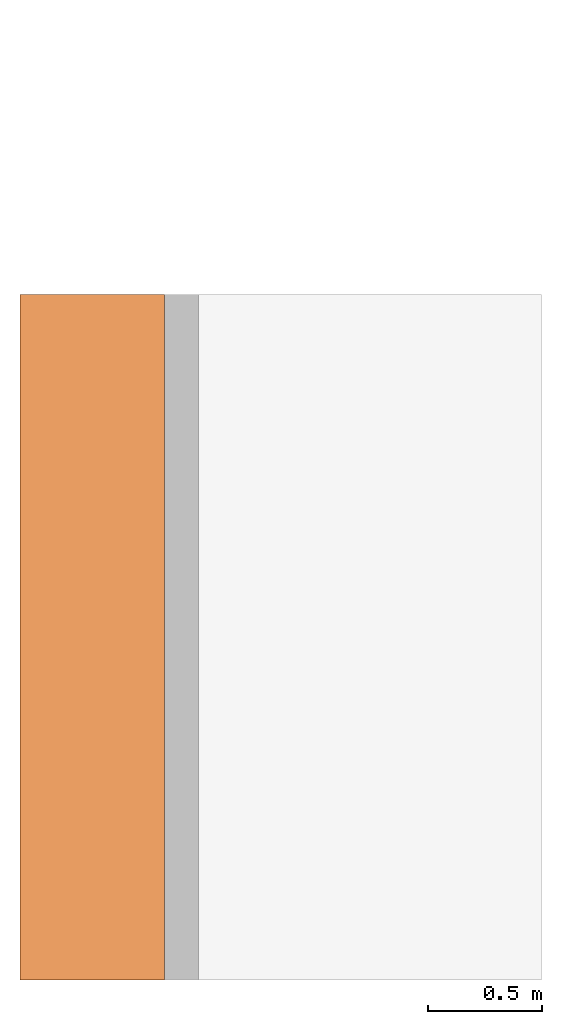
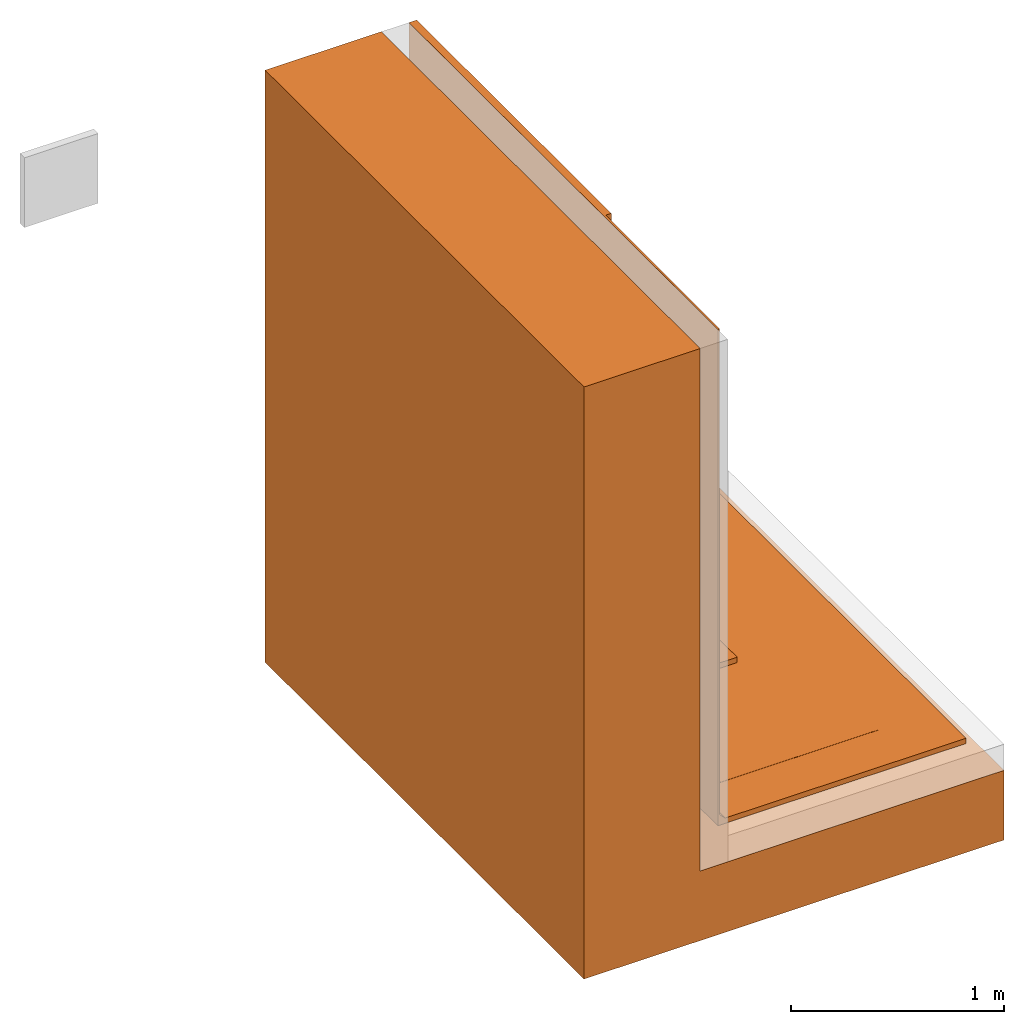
# One storey, part 2 of 2: 1 proxy.
"""IFC2X3 building model written with IfcOpenShell, lengths in metres."""

import ifcopenshell
import ifcopenshell.guid

model = None  # the IFC model being written
_history = None  # IfcOwnerHistory: only IFC2X3 demands one
_inside = {}  # id of a spatial element -> (the spatial element, [elements in it])
_under = {}  # id of a project, library or spatial element -> (it, [spatial elements below it])
_declared = {}  # id of a project -> (the project, [libraries it declares])
_typed = {}  # id of a type object -> (the type object, [elements of that type])
_made_of = {}  # id of a material, layer set ... -> (it, [elements and type objects made of it])


def new_model(schema):
    """Start an empty IFC model of exactly this schema.

    Asked for "IFC4X3", IfcOpenShell would pick the latest addendum, in which some entities
    have other attributes; the version numbers below select the first issue.
    IFC2X3 requires an IfcOwnerHistory on every rooted entity: one is made here for all.
    """
    global model, _history
    if schema == "IFC4X3":
        model = ifcopenshell.file(schema_version=(4, 3, 0, 0))
    else:
        model = ifcopenshell.file(schema=schema)
    _inside.clear()
    _under.clear()
    _declared.clear()
    _typed.clear()
    _made_of.clear()
    _history = None
    if model.schema == "IFC2X3":
        org = make("IfcOrganization", Name="unknown")
        user = make(
            "IfcPersonAndOrganization",
            ThePerson=make("IfcPerson", FamilyName="unknown"),
            TheOrganization=org,
        )
        app = make(
            "IfcApplication",
            ApplicationDeveloper=org,
            Version="unknown",
            ApplicationFullName="unknown",
            ApplicationIdentifier="unknown",
        )
        _history = make(
            "IfcOwnerHistory",
            OwningUser=user,
            OwningApplication=app,
            ChangeAction="ADDED",
            CreationDate=0,
        )
    return model


def make(cls, **values):
    """One entity of the class cls with the attributes given. An attribute that is None is left unset."""
    return model.create_entity(
        cls, **{name: value for name, value in values.items() if value is not None}
    )


def entity(cls, *values):
    """Any entity or typed value of the class cls, its attributes in the order of the schema. None: left unset."""
    e = model.create_entity(cls)
    for i, value in enumerate(values):
        if value is not None:
            e[i] = value
    return e


def rooted(cls, **values):
    """An entity with a GlobalId (a new one), such as an element, a storey or a relation."""
    return make(cls, GlobalId=ifcopenshell.guid.new(), OwnerHistory=_history, **values)


def si_unit(unit_type, name, prefix=None):
    """IfcSIUnit, for example si_unit("LENGTHUNIT", "METRE", prefix="MILLI")."""
    return make("IfcSIUnit", UnitType=unit_type, Prefix=prefix, Name=name)


def converted_unit(unit_type, name, factor, base, dimensions=None, offset=None):
    """IfcConversionBasedUnit, such as the inch: factor (a typed value) times the base unit."""
    return make(
        "IfcConversionBasedUnit"
        if offset is None
        else "IfcConversionBasedUnitWithOffset",
        ConversionOffset=offset,
        Dimensions=None
        if dimensions is None
        else entity("IfcDimensionalExponents", *dimensions),
        UnitType=unit_type,
        Name=name,
        ConversionFactor=make(
            "IfcMeasureWithUnit", ValueComponent=factor, UnitComponent=base
        ),
    )


def derived_unit(unit_type, elements):
    """IfcDerivedUnit: a product of units, each with its exponent."""
    return make(
        "IfcDerivedUnit",
        Elements=[
            make("IfcDerivedUnitElement", Unit=unit, Exponent=power)
            for unit, power in elements
        ],
        UnitType=unit_type,
    )


def assignment(units):
    """IfcUnitAssignment: the units of a project."""
    return None if units is None else make("IfcUnitAssignment", Units=units)


def point(xyz):
    """IfcCartesianPoint."""
    return None if xyz is None else make("IfcCartesianPoint", Coordinates=xyz)


def direction(xyz):
    """IfcDirection."""
    return None if xyz is None else make("IfcDirection", DirectionRatios=xyz)


def frame(location, z_axis=None, x_axis=None):
    """IfcAxis2Placement3D, a coordinate frame: its origin and axes. An axis left out is left unset."""
    return make(
        "IfcAxis2Placement3D",
        Location=point(location),
        Axis=direction(z_axis),
        RefDirection=direction(x_axis),
    )


def frame_2d(location, x_axis=None):
    """IfcAxis2Placement2D, a coordinate frame in the plane: its origin and x axis."""
    return make(
        "IfcAxis2Placement2D", Location=point(location), RefDirection=direction(x_axis)
    )


def origin():
    """The frame at (0, 0, 0) with its axes left unset."""
    return frame((0.0, 0.0, 0.0))


def origin_2d_with_axis():
    """The frame at (0, 0) in the plane with the x axis (1, 0) written out."""
    return frame_2d((0.0, 0.0), x_axis=(1.0, 0.0))


def place(relative_to, where):
    """IfcLocalPlacement: puts the frame where relative to a parent placement (None: the world)."""
    return make(
        "IfcLocalPlacement", PlacementRelTo=relative_to, RelativePlacement=where
    )


def context(
    kind, dimensions, precision=None, world=None, true_north=None, identifier=None
):
    """IfcGeometricRepresentationContext, for example the 3D "Model" context."""
    return make(
        "IfcGeometricRepresentationContext",
        ContextIdentifier=identifier,
        ContextType=kind,
        CoordinateSpaceDimension=dimensions,
        Precision=precision,
        WorldCoordinateSystem=world,
        TrueNorth=true_north,
    )


def subcontext(parent, identifier, kind, view, scale=None):
    """IfcGeometricRepresentationSubContext, for example "Body" below "Model"."""
    return make(
        "IfcGeometricRepresentationSubContext",
        ContextIdentifier=identifier,
        ContextType=kind,
        ParentContext=parent,
        TargetScale=scale,
        TargetView=view,
    )


def project(units=None, contexts=None):
    """IfcProject with its units and contexts."""
    return rooted(
        "IfcProject",
        Name="project",
        RepresentationContexts=contexts,
        UnitsInContext=assignment(units),
    )


def spatial(cls, under=None, at=None, **own):
    """A site, building, storey or space (cls), placed at a placement, below another one or the project."""
    s = rooted(cls, ObjectPlacement=at, **own)
    if under is not None:
        _under.setdefault(under.id(), (under, []))[1].append(s)
    return s


def polyline(points):
    """IfcPolyline through the points."""
    return make("IfcPolyline", Points=[point(p) for p in points])


def circle_curve(where, radius):
    """IfcCircle in the frame where."""
    return make("IfcCircle", Position=where, Radius=radius)


def parameter(value):
    """IfcParameterValue: where a trimmed curve begins or ends, as a parameter of its basis curve."""
    return model.create_entity("IfcParameterValue", value)


def trimmed(basis, trim1, trim2, sense, master):
    """IfcTrimmedCurve: the piece of a basis curve between two trims."""
    return make(
        "IfcTrimmedCurve",
        BasisCurve=basis,
        Trim1=trim1,
        Trim2=trim2,
        SenseAgreement=sense,
        MasterRepresentation=master,
    )


def segment(curve, same_sense, transition):
    """IfcCompositeCurveSegment."""
    return make(
        "IfcCompositeCurveSegment",
        Transition=transition,
        SameSense=same_sense,
        ParentCurve=curve,
    )


def composite_curve(segments, self_intersect=None):
    """IfcCompositeCurve: segments joined end to end."""
    return make("IfcCompositeCurve", Segments=segments, SelfIntersect=self_intersect)


def profile(cls, at=None, kind="AREA", **sizes):
    """A parametric profile (cls). Its sizes go by their IFC names, for example OverallWidth=200.0."""
    return make(cls, ProfileType=kind, Position=at, **sizes)


def rectangle(**sizes):
    """IfcRectangleProfileDef."""
    return profile("IfcRectangleProfileDef", **sizes)


def outline(outer, holes=None, kind="AREA"):
    """IfcArbitraryClosedProfileDef: a profile drawn as a closed curve; with holes, ...WithVoids."""
    if holes is None:
        return make("IfcArbitraryClosedProfileDef", ProfileType=kind, OuterCurve=outer)
    return make(
        "IfcArbitraryProfileDefWithVoids",
        ProfileType=kind,
        OuterCurve=outer,
        InnerCurves=holes,
    )


def extrude(swept, where, along, depth):
    """IfcExtrudedAreaSolid: the profile swept, set in the frame where, extruded along a direction by depth."""
    return make(
        "IfcExtrudedAreaSolid",
        SweptArea=swept,
        Position=where,
        ExtrudedDirection=direction(along),
        Depth=depth,
    )


def shape(context_of_items, identifier, shape_type, items):
    """IfcShapeRepresentation: the items that make up one representation, for example the "Body"."""
    return make(
        "IfcShapeRepresentation",
        ContextOfItems=context_of_items,
        RepresentationIdentifier=identifier,
        RepresentationType=shape_type,
        Items=items,
    )


def source(mapping_origin, context_of_items, identifier, shape_type, items):
    """IfcRepresentationMap: a shape defined once, which mapped items show again and again."""
    return make(
        "IfcRepresentationMap",
        MappingOrigin=mapping_origin,
        MappedRepresentation=shape(context_of_items, identifier, shape_type, items),
    )


def transform(
    local_origin,
    x_axis=None,
    y_axis=None,
    z_axis=None,
    scale=None,
    scale2=None,
    scale3=None,
    uniform=True,
):
    """IfcCartesianTransformationOperator3D, or its non-uniform kind. x_axis, y_axis, z_axis: its Axis1, 2, 3."""
    if uniform:
        return make(
            "IfcCartesianTransformationOperator3D",
            Axis1=direction(x_axis),
            Axis2=direction(y_axis),
            LocalOrigin=point(local_origin),
            Scale=scale,
            Axis3=direction(z_axis),
        )
    return make(
        "IfcCartesianTransformationOperator3DnonUniform",
        Axis1=direction(x_axis),
        Axis2=direction(y_axis),
        LocalOrigin=point(local_origin),
        Scale=scale,
        Axis3=direction(z_axis),
        Scale2=scale2,
        Scale3=scale3,
    )


def mapped(mapping_source, mapping_target):
    """IfcMappedItem: shows the shape of a source again, moved by a transform."""
    return make(
        "IfcMappedItem", MappingSource=mapping_source, MappingTarget=mapping_target
    )


def material(Name=None, Category=None):
    """IfcMaterial."""
    return make("IfcMaterial", Name=Name, Category=Category)


def material_list(materials):
    """IfcMaterialList."""
    return make("IfcMaterialList", Materials=materials)


def made_of(thing, what):
    """Note that an element or type object is made of a material, layer set ...; save() writes the relation."""
    if what is not None:
        _made_of.setdefault(what.id(), (what, []))[1].append(thing)
    return thing


def type_object(cls, material=None, **own):
    """A type object (cls), such as IfcWallType, which elements share."""
    return made_of(rooted(cls, **own), material)


def type_shapes(of_type, sources):
    """Give a type object the sources (RepresentationMaps) that its elements show as mapped items."""
    of_type.RepresentationMaps = sources


def element(
    cls,
    number,
    at=None,
    inside=None,
    cuts=None,
    type_object=None,
    material=None,
    context=None,
    identifier="Body",
    shape_type=None,
    held_by="IfcProductDefinitionShape",
    body=None,
    shapes=None,
    **own,
):
    """One element of the class cls, such as IfcWall. Its Tag is "e" and its number.

    at: its placement. inside: the storey or other place that contains it. cuts: it is an
    opening in that element (IfcRelVoidsElement). A single representation is given by context,
    identifier, shape_type and body (its items); several are given by shapes. held_by: the class
    of the entity that holds the representations. save() writes the other relations.
    """
    e = rooted(cls, Tag="e%d" % number, ObjectPlacement=at, **own)
    if body is not None:
        shapes = [shape(context, identifier, shape_type, body)]
    if shapes is not None:
        e.Representation = make(held_by, Representations=shapes)
    if inside is not None:
        _inside.setdefault(inside.id(), (inside, []))[1].append(e)
    if cuts is not None:
        rooted(
            "IfcRelVoidsElement", RelatingBuildingElement=cuts, RelatedOpeningElement=e
        )
    if type_object is not None:
        _typed.setdefault(type_object.id(), (type_object, []))[1].append(e)
    return made_of(e, material)


def aggregate(whole, parts):
    """IfcRelAggregates: a whole, such as a stair, and the parts it consists of."""
    return rooted("IfcRelAggregates", RelatingObject=whole, RelatedObjects=parts)


def save(model, path):
    """Write the relations noted so far, then the file.

    IfcRelAggregates (storeys below a building ...), IfcRelContainedInSpatialStructure (elements
    in a storey), IfcRelDefinesByType, IfcRelAssociatesMaterial and IfcRelDeclares: one each for
    every whole, place, type object, material and project.
    """
    for whole, parts in _under.values():
        aggregate(whole, parts)
    for where, things in _inside.values():
        rooted(
            "IfcRelContainedInSpatialStructure",
            RelatedElements=things,
            RelatingStructure=where,
        )
    for kind, things in _typed.values():
        rooted("IfcRelDefinesByType", RelatedObjects=things, RelatingType=kind)
    for what, things in _made_of.values():
        rooted("IfcRelAssociatesMaterial", RelatedObjects=things, RelatingMaterial=what)
    for by, libraries in _declared.values():
        rooted("IfcRelDeclares", RelatingContext=by, RelatedDefinitions=libraries)
    model.write(path)


model = new_model("IFC2X3")

# Units and contexts
model_context = context("Model", 3, precision=1e-05, world=origin(), true_north=direction((6.123031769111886e-17, 1.0)))
body_context = subcontext(model_context, "Body", "Model", "MODEL_VIEW")
ifc_project = project(units=[si_unit("LENGTHUNIT", "METRE"), si_unit("AREAUNIT", "SQUARE_METRE"), si_unit("VOLUMEUNIT", "CUBIC_METRE"), converted_unit("PLANEANGLEUNIT", "DEGREE", entity("IfcRatioMeasure", 0.017453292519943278), si_unit("PLANEANGLEUNIT", "RADIAN"), dimensions=[0, 0, 0, 0, 0, 0, 0]), si_unit("MASSUNIT", "GRAM", prefix="KILO"), derived_unit("MASSDENSITYUNIT", [(si_unit("MASSUNIT", "GRAM", prefix="KILO"), 1), (si_unit("LENGTHUNIT", "METRE"), -3)]), derived_unit("IONCONCENTRATIONUNIT", [(si_unit("MASSUNIT", "GRAM", prefix="KILO"), 1), (si_unit("LENGTHUNIT", "METRE"), -3)]), derived_unit("MOMENTOFINERTIAUNIT", [(si_unit("LENGTHUNIT", "METRE"), 4)]), si_unit("TIMEUNIT", "SECOND"), si_unit("FREQUENCYUNIT", "HERTZ"), si_unit("THERMODYNAMICTEMPERATUREUNIT", "DEGREE_CELSIUS"), derived_unit("THERMALTRANSMITTANCEUNIT", [(si_unit("MASSUNIT", "GRAM", prefix="KILO"), 1), (si_unit("THERMODYNAMICTEMPERATUREUNIT", "KELVIN"), -1), (si_unit("TIMEUNIT", "SECOND"), -3)]), derived_unit("THERMALCONDUCTANCEUNIT", [(si_unit("MASSUNIT", "GRAM", prefix="KILO"), 1), (si_unit("THERMODYNAMICTEMPERATUREUNIT", "KELVIN"), -1), (si_unit("TIMEUNIT", "SECOND"), -3), (si_unit("LENGTHUNIT", "METRE"), 1)]), derived_unit("VOLUMETRICFLOWRATEUNIT", [(si_unit("LENGTHUNIT", "METRE"), 3), (si_unit("TIMEUNIT", "SECOND"), -1)]), derived_unit("MASSFLOWRATEUNIT", [(si_unit("MASSUNIT", "GRAM", prefix="KILO"), 1), (si_unit("TIMEUNIT", "SECOND"), -1)]), derived_unit("ROTATIONALFREQUENCYUNIT", [(si_unit("TIMEUNIT", "SECOND"), -1)]), si_unit("ELECTRICCURRENTUNIT", "AMPERE"), si_unit("ELECTRICVOLTAGEUNIT", "VOLT"), si_unit("POWERUNIT", "WATT"), si_unit("FORCEUNIT", "NEWTON", prefix="KILO"), si_unit("ILLUMINANCEUNIT", "LUX"), si_unit("LUMINOUSFLUXUNIT", "LUMEN"), si_unit("LUMINOUSINTENSITYUNIT", "CANDELA"), derived_unit("USERDEFINED", [(si_unit("MASSUNIT", "GRAM", prefix="KILO"), -1), (si_unit("LENGTHUNIT", "METRE"), -2), (si_unit("TIMEUNIT", "SECOND"), 3), (si_unit("LUMINOUSFLUXUNIT", "LUMEN"), 1)]), derived_unit("USERDEFINED", [(si_unit("MASSUNIT", "GRAM", prefix="KILO"), 1), (si_unit("TIMEUNIT", "SECOND"), -3), (si_unit("LENGTHUNIT", "METRE"), 3), (si_unit("ELECTRICCURRENTUNIT", "AMPERE"), -2)]), derived_unit("SOUNDPOWERUNIT", [(si_unit("MASSUNIT", "GRAM", prefix="KILO"), 1), (si_unit("TIMEUNIT", "SECOND"), -3), (si_unit("LENGTHUNIT", "METRE"), 2)]), derived_unit("SOUNDPRESSUREUNIT", [(si_unit("MASSUNIT", "GRAM", prefix="KILO"), 1), (si_unit("LENGTHUNIT", "METRE"), -1), (si_unit("TIMEUNIT", "SECOND"), -2)]), derived_unit("LINEARVELOCITYUNIT", [(si_unit("LENGTHUNIT", "METRE"), 1), (si_unit("TIMEUNIT", "SECOND"), -1)]), si_unit("PRESSUREUNIT", "PASCAL"), derived_unit("USERDEFINED", [(si_unit("MASSUNIT", "GRAM", prefix="KILO"), 1), (si_unit("LENGTHUNIT", "METRE"), -2), (si_unit("TIMEUNIT", "SECOND"), -2)]), derived_unit("LINEARFORCEUNIT", [(si_unit("MASSUNIT", "GRAM", prefix="KILO"), 1), (si_unit("TIMEUNIT", "SECOND"), -2)]), derived_unit("PLANARFORCEUNIT", [(si_unit("MASSUNIT", "GRAM", prefix="KILO"), 1), (si_unit("LENGTHUNIT", "METRE"), -1), (si_unit("TIMEUNIT", "SECOND"), -2)]), derived_unit("SPECIFICHEATCAPACITYUNIT", [(si_unit("THERMODYNAMICTEMPERATUREUNIT", "KELVIN"), -1), (si_unit("LENGTHUNIT", "METRE"), 2), (si_unit("TIMEUNIT", "SECOND"), -2)]), derived_unit("HEATINGVALUEUNIT", [(si_unit("LENGTHUNIT", "METRE"), 2), (si_unit("TIMEUNIT", "SECOND"), -2)]), derived_unit("VAPORPERMEABILITYUNIT", [(si_unit("LENGTHUNIT", "METRE"), -1), (si_unit("TIMEUNIT", "SECOND"), 1)]), derived_unit("DYNAMICVISCOSITYUNIT", [(si_unit("MASSUNIT", "GRAM", prefix="KILO"), 1), (si_unit("TIMEUNIT", "SECOND"), -1), (si_unit("LENGTHUNIT", "METRE"), -1)]), derived_unit("THERMALEXPANSIONCOEFFICIENTUNIT", [(si_unit("THERMODYNAMICTEMPERATUREUNIT", "KELVIN"), -1)]), derived_unit("MODULUSOFELASTICITYUNIT", [(si_unit("MASSUNIT", "GRAM", prefix="KILO"), 1), (si_unit("LENGTHUNIT", "METRE"), -1), (si_unit("TIMEUNIT", "SECOND"), -2)]), derived_unit("ISOTHERMALMOISTURECAPACITYUNIT", [(si_unit("LENGTHUNIT", "METRE"), 3), (si_unit("MASSUNIT", "GRAM", prefix="KILO"), -1)]), derived_unit("MOISTUREDIFFUSIVITYUNIT", [(si_unit("TIMEUNIT", "SECOND"), -1), (si_unit("LENGTHUNIT", "METRE"), 2)])], contexts=[model_context])

# Site, building, storey
site_placement = place(None, origin())
site = spatial("IfcSite", under=ifc_project, at=site_placement, Name="Default", CompositionType="ELEMENT")
building_placement = place(site_placement, origin())
building = spatial("IfcBuilding", under=site, at=building_placement, CompositionType="ELEMENT")
storey_placement = place(building_placement, frame((0.0, 0.0, -0.0025237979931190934)))
storey = spatial("IfcBuildingStorey", under=building, at=storey_placement, Name="ARQ Térreo", CompositionType="ELEMENT", Elevation=-0.0025237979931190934)

# Proxy
ifc_material_1 = material(Name="#Argamassa")
ifc_material_2 = material(Name="#Selante")
ifc_material_3 = material(Name="#Proteção Mecânica")
ifc_material_4 = material(Name="#Chapisco")
ifc_material_5 = material(Name="#VIAPLUS 2000 Fibras")
ifc_material_6 = material(Name="#solo")
ifc_material_list = material_list([ifc_material_1, ifc_material_2, ifc_material_3, ifc_material_4, ifc_material_5, ifc_material_6])
building_element_proxy_type = type_object("IfcBuildingElementProxyType", Name="IMPER:IMPER", PredefinedType="NOTDEFINED", material=ifc_material_list)
shared_shape = source(origin(), body_context, "Body", "SweptSolid", [
    extrude(rectangle(XDim=2.905755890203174, YDim=0.00999999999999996, at=origin_2d_with_axis()), frame((-0.34697041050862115, -1.3070079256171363, 0.14747620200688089), z_axis=(0.0, 0.0, 1.0), x_axis=(0.0, -1.0, 0.0)), (0.0, 0.0, 1.0), 2.8499999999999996),
    extrude(rectangle(XDim=1.8305824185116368, YDim=0.010000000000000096, at=frame_2d((0.0, 1.691355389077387e-17), x_axis=(1.0, 0.0))), frame((-0.3049704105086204, -0.7694211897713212, 0.19947620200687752), z_axis=(0.0, 0.0, 1.0), x_axis=(0.0, -1.0, 0.0)), (0.0, 0.0, 1.0), 0.010000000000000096),
    extrude(outline(composite_curve([segment(polyline([(-0.5369105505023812, -0.6411111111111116), (0.14997444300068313, -0.6411111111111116)]), True, "CONTINUOUS"), segment(trimmed(circle_curve(frame_2d((0.14997444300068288, -0.6131111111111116), x_axis=(-1.0, 0.0)), 0.02800000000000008), [parameter(89.99999999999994)], [parameter(179.99999999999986)], True, "PARAMETER"), True, "CONTINUOUS"), segment(polyline([(0.1779744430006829, -0.6131111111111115), (0.17797444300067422, 2.177888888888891)]), True, "CONTINUOUS"), segment(polyline([(0.17797444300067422, 2.177888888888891), (0.14697444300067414, 2.177888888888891)]), True, "CONTINUOUS"), segment(polyline([(0.14697444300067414, 2.177888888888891), (0.14697444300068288, -0.6201111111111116)]), True, "CONTINUOUS"), segment(polyline([(0.14697444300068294, -0.6201111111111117), (0.13697444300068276, -0.6201111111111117)]), True, "CONTINUOUS"), segment(polyline([(0.13697444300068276, -0.6201111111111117), (0.13697444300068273, -0.6101111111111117)]), True, "CONTINUOUS"), segment(polyline([(0.13697444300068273, -0.6101111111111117), (-0.5369105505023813, -0.6101111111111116)]), True, "CONTINUOUS"), segment(polyline([(-0.5369105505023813, -0.6101111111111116), (-0.5369105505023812, -0.6411111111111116)]), True, "CONTINUOUS")], self_intersect=False)), frame((-0.16299596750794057, -1.6847123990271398, 0.8195873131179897), z_axis=(0.0, 1.0, 0.0), x_axis=(-1.0, 0.0, 0.0)), (0.0, 0.0, 1.0), 1.8305824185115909),
    extrude(rectangle(XDim=2.274372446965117, YDim=0.0009999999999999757, at=frame_2d((1.1102230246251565e-16, 3.382710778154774e-17), x_axis=(1.0, 0.0))), frame((-0.3404704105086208, -0.9913162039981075, 0.20747620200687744), z_axis=(0.0, 0.0, 1.0), x_axis=(0.0, -1.0, 0.0)), (0.0, 0.0, 1.0), 2.790000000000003),
    extrude(outline(composite_curve([segment(polyline([(0.7117499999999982, -0.7564236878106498), (0.7127499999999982, -0.7564236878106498)]), True, "CONTINUOUS"), segment(polyline([(0.7127499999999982, -0.7564236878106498), (0.7127500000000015, 0.2324745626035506)]), True, "CONTINUOUS"), segment(trimmed(circle_curve(frame_2d((0.6827500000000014, 0.23247456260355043), x_axis=(0.0, -1.0)), 0.030000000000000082), [parameter(89.99999999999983)], [parameter(180.0000000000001)], True, "PARAMETER"), True, "CONTINUOUS"), segment(polyline([(0.6827500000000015, 0.26247456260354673), (-2.1072500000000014, 0.2624745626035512)]), True, "CONTINUOUS"), segment(polyline([(-2.1072500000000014, 0.2624745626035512), (-2.1072500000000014, 0.26147456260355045)]), True, "CONTINUOUS"), segment(polyline([(-2.1072500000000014, 0.26147456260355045), (0.6827500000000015, 0.26147456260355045)]), True, "CONTINUOUS"), segment(trimmed(circle_curve(frame_2d((0.6827500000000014, 0.23247456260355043), x_axis=(0.0, -1.0)), 0.02900000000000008), [parameter(90.00000000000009)], [parameter(180.00000000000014)], True, "PARAMETER"), False, "CONTINUOUS"), segment(polyline([(0.7117500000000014, 0.23247456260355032), (0.7117499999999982, -0.7564236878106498)]), True, "CONTINUOUS")], self_intersect=False)), frame((-0.07949584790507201, -2.4951314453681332, 0.890226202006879), z_axis=(0.0, 1.0, 0.0), x_axis=(0.0, 0.0, -1.0)), (0.0, 0.0, 1.0), 2.641001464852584),
    extrude(outline(composite_curve([segment(polyline([(-0.0060000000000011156, -0.7973389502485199), (0.023999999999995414, -0.7973389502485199)]), True, "CONTINUOUS"), segment(polyline([(0.023999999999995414, -0.7973389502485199), (0.023999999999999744, 0.54155930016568)]), True, "CONTINUOUS"), segment(polyline([(0.023999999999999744, 0.5415593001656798), (-0.03599999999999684, 0.54155930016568)]), True, "CONTINUOUS"), segment(trimmed(circle_curve(frame_2d((-0.035999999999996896, 0.51155930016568), x_axis=(0.0, -1.0)), 0.030000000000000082), [parameter(90.00000000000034)], [parameter(180.00000000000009)], True, "PARAMETER"), False, "CONTINUOUS"), segment(polyline([(-0.0059999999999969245, 0.5115593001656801), (-0.0060000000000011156, -0.7973389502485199)]), True, "CONTINUOUS")], self_intersect=False)), frame((0.1995888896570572, -2.7598858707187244, 0.17147620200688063), z_axis=(0.0, 1.0, 0.0), x_axis=(0.0, 0.0, -1.0)), (0.0, 0.0, 1.0), 2.9057558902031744),
    extrude(outline(polyline([(-1.1428571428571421, -0.83205814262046), (-0.7428571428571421, -0.83205814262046), (2.2571428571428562, -0.8320581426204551), (2.257142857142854, -0.2009563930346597), (-0.7428571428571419, -0.2009563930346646), (-0.7428571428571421, 1.4490436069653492), (-1.1428571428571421, 1.4490436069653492), (-1.1428571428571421, -0.83205814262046)])), frame((-0.30101401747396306, -2.854129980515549, 0.7403333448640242), z_axis=(0.0, 1.0, 0.0), x_axis=(0.0, 0.0, 1.0)), (0.0, 0.0, 1.0), 3.0000000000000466),
])
type_shapes(building_element_proxy_type, [shared_shape])
proxy_placement = place(storey_placement, frame((0.0, 0.0, 0.0025237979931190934)))
element("IfcBuildingElementProxy", 1, at=proxy_placement, inside=storey, type_object=building_element_proxy_type, material=ifc_material_list, Name="IMPER:IMPER:IMPER : IMPER:IMPER", ObjectType="IMPER:IMPER:IMPER : IMPER:IMPER", context=body_context, shape_type="MappedRepresentation", body=[
    mapped(shared_shape, transform((0.0, 0.0, 0.0), scale=1.0)),
])

save(model, "model.ifc")
